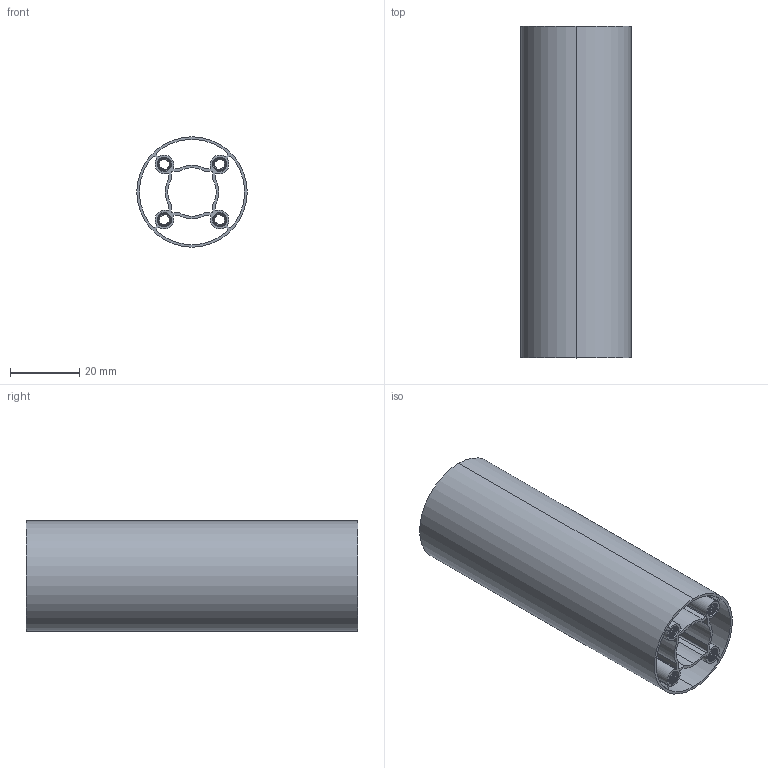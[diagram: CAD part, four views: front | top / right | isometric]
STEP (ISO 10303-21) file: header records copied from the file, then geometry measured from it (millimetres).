
FILE_DESCRIPTION (( 'STEP AP203' ), '1' );
FILE_NAME ('4103-0032-0096.STEP', '2022-09-14T13:47:49', ( '' ), ( '' ), 'SwSTEP 2.0', 'SolidWorks 2016', '' );
FILE_SCHEMA (( 'CONFIG_CONTROL_DESIGN' ));
Length unit declared in the file: millimetre
Products named in the file (1): 4103-0032-0096
Bounding box: 31.95 x 96 x 31.95 mm (x, y, z)
Volume: 16104.2 mm3; surface area: 38972.3 mm2
Topology: 1 solids, 1 shells, 781 faces, 2333 edges, 1554 vertices
Faces by surface type: cylinder 711, plane 34, cone 20, bspline 16
Entity records: 50002 total; most frequent: CARTESIAN_POINT 32717, ORIENTED_EDGE 4666, DIRECTION 2715, EDGE_CURVE 2333, VERTEX_POINT 1554, AXIS2_PLACEMENT_3D 960, EDGE_LOOP 799, LINE 795
